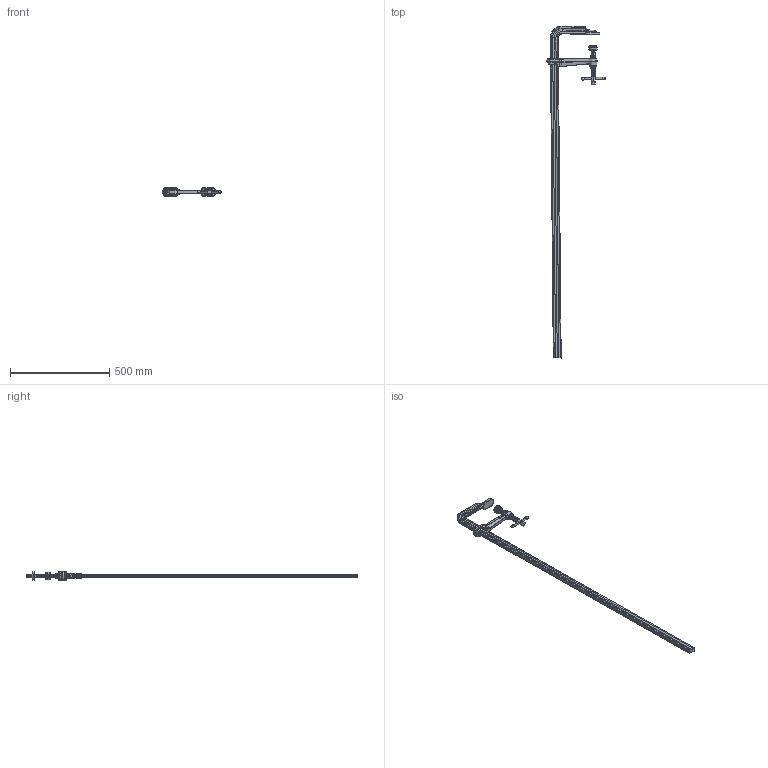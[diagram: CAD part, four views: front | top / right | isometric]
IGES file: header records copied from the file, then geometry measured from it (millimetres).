
Start section: ZWSOFT
Global section: file name: STB150.igs; native system: ZW3D; preprocessor: 1.0; author: ZW3D; organization: ZWSOFT; date: 130731.161652; units: millimetre
Bounding box: 293.84 x 1669.94 x 50 mm (x, y, z)
Surface area: 272805.3 mm2 (no closed solid volume)
Topology: 0 solids, 0 shells, 1204 faces, 6612 edges, 6597 vertices
Faces by surface type: bspline 1204
